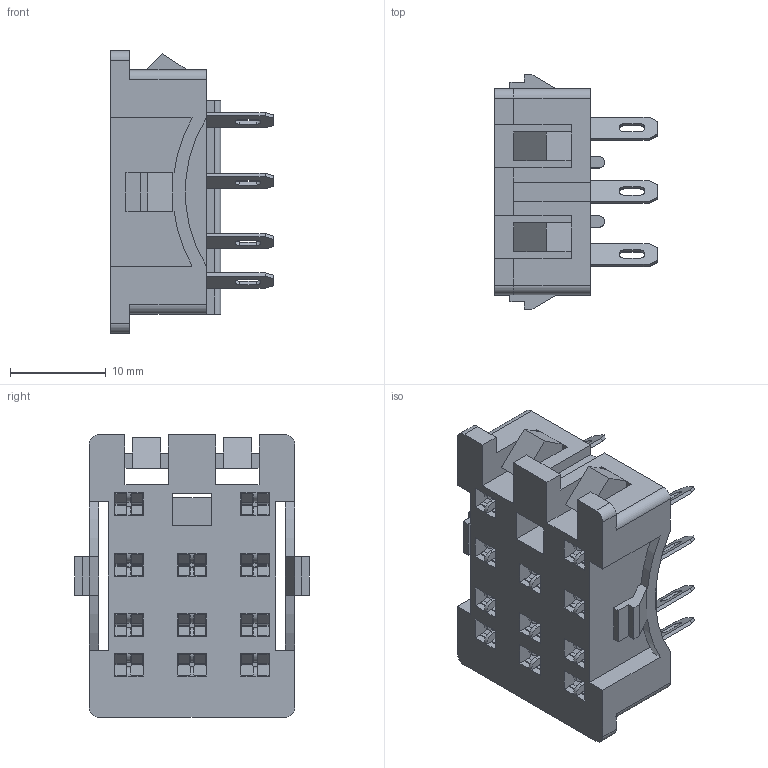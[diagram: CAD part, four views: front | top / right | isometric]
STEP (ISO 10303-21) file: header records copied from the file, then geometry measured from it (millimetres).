
FILE_DESCRIPTION(/* description */ (''),/* implementation_level */ '2;1');
FILE_NAME(/* name */ 'C:\Desktop\3D 94.23\94.23.stp',/* time_stamp */ '2016-03-09T10:49:33+01:00',/* author */ ('marco'),/* organization */ (''),/* preprocessor_version */ 'ST-DEVELOPER v16.1',/* originating_system */ 'Autodesk Inventor 2016',/* authorisation */ '');
FILE_SCHEMA (('AUTOMOTIVE_DESIGN { 1 0 10303 214 3 1 1 }'));
Length unit declared in the file: centimetre
Products named in the file (1): 94.23
Bounding box: 17 x 24.5 x 29.5 mm (x, y, z)
Volume: 4318.3 mm3; surface area: 5744.5 mm2
Topology: 1 solids, 1 shells, 1154 faces, 3624 edges, 2354 vertices
Faces by surface type: plane 918, cylinder 236
Entity records: 40295 total; most frequent: ORIENTED_EDGE 7248, CARTESIAN_POINT 7133, DIRECTION 6406, EDGE_CURVE 3624, LINE 3152, VECTOR 3152, VERTEX_POINT 2354, AXIS2_PLACEMENT_3D 1627
